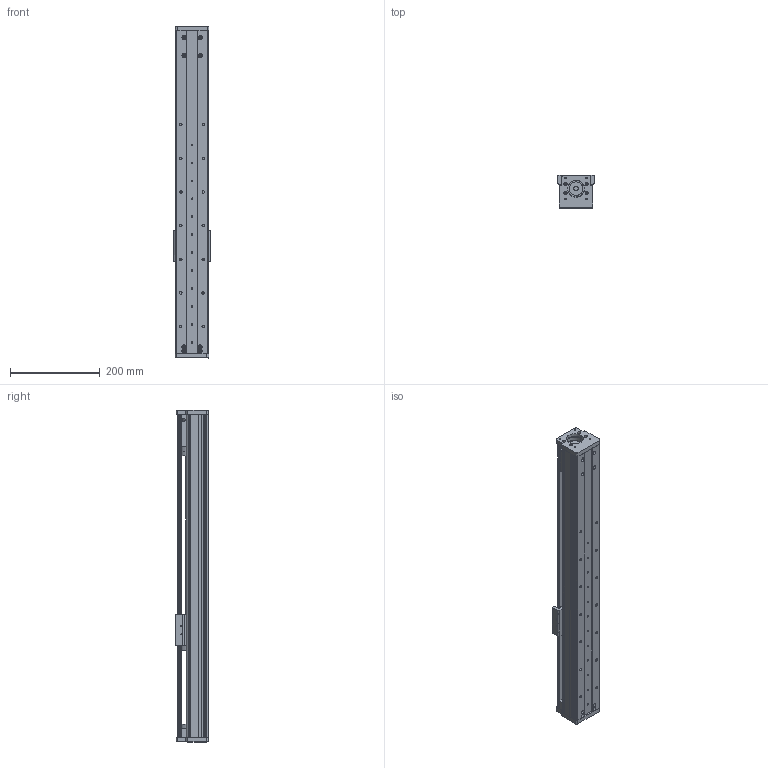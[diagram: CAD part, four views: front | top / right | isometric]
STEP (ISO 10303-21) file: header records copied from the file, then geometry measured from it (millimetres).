
FILE_DESCRIPTION (( 'STEP AP203' ), '1' );
FILE_NAME ('CF75-P500.STEP', '2016-02-22T03:06:35', ( 'Sky123.Org' ), ( 'Sky123.Org' ), 'SwSTEP 2.0', 'SolidWorks 2015', '' );
FILE_SCHEMA (( 'CONFIG_CONTROL_DESIGN' ));
Length unit declared in the file: millimetre
Products named in the file (17): 75-57祭輛萇儂假蚾啣; SFU1605-3; 75嘐隅釱; 75粣創裔啣; 75支持侧板（2016.01.24改进）; 75滅袉蝶菜; 75盓厥釱; 75裔啣; angular contact ball bearings gb_Rolling bearings S7001 GB 292-94; SFU1616幗紩佪裝; 坶踡蹟譫M12-1; CF75-300俴最臏倰第; 75賑雄啣; MGW12H絳寢-俴最300; CF75-P500; 30-42薊粣ん; MGW12賑輸
Assembly tree (20 placements, depth 2):
  CF75-P500
    MGW12賑輸
    SFU1605-3
    75粣創裔啣
    75滅袉蝶菜  x2
    75裔啣
    SFU1616幗紩佪裝
    CF75-300俴最臏倰第
    MGW12H絳寢-俴最300
    30-42薊粣ん
    75-57祭輛萇儂假蚾啣
    75嘐隅釱
    75支持侧板（2016.01.24改进）
    75盓厥釱
    angular contact ball bearings gb_Rolling bearings S7001 GB 292-94  x4
    坶踡蹟譫M12-1
    75賑雄啣
Bounding box: 82.03 x 73.93 x 740.03 mm (x, y, z)
Volume: 1656876.5 mm3; surface area: 606075.2 mm2
Topology: 20 solids, 20 shells, 1489 faces, 4789 edges, 3193 vertices
Faces by surface type: cylinder 677, plane 485, torus 212, sphere 112, bspline 3
Entity records: 52852 total; most frequent: CARTESIAN_POINT 20723, ORIENTED_EDGE 6518, DIRECTION 6255, EDGE_CURVE 3259, AXIS2_PLACEMENT_3D 2404, VERTEX_POINT 2158, VECTOR 1447, LINE 1447
